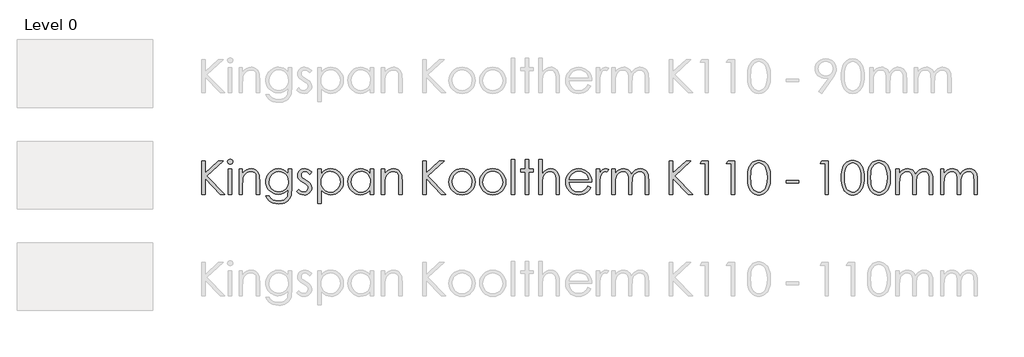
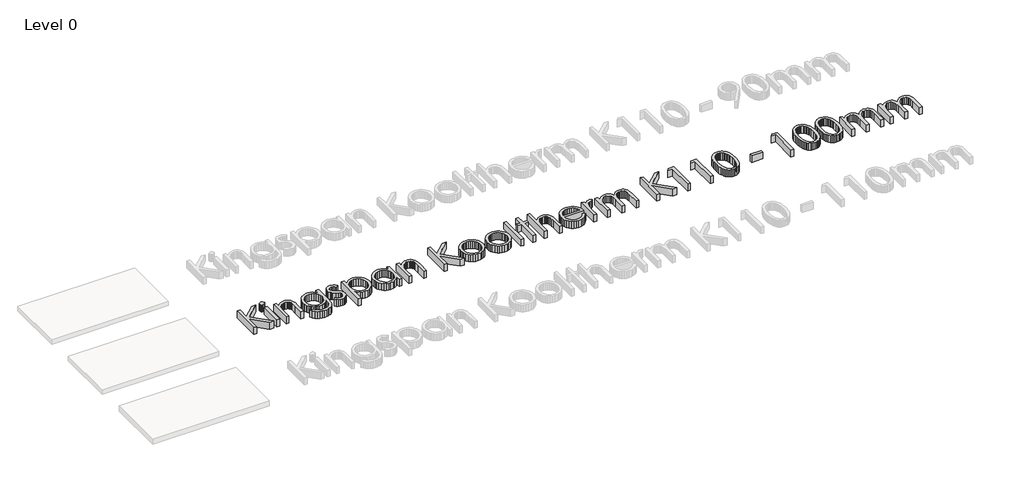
# One storey, part 3 of 9: 1 proxy.
"""IFC4 building model written with IfcOpenShell, lengths in millimetres."""

from ifc_helpers import new_model, si_unit, origin, origin_with_axes, place, context, project, spatial, polyline, outline, extrude, element, save

model = new_model("IFC4")

# Units and contexts
model_context = context("Model", 3, world=origin())
ifc_project = project(units=[si_unit("LENGTHUNIT", "METRE", prefix="MILLI")], contexts=[model_context])

# Site, building, storey
site = spatial("IfcSite", under=ifc_project)
building = spatial("IfcBuilding", under=site)
storey = spatial("IfcBuildingStorey", under=building, Name="Level 0", Elevation=0.0)

# Proxy
placement = place(None, origin())
element("IfcBuildingElementProxy", 1, Name="600mm KI_CenturyGothic", ObjectType="600mm KI_CenturyGothic", at=placement, inside=storey, context=model_context, shape_type="SweptSolid", body=[
    extrude(outline(polyline([(-3852.2663848, -4899.1034017), (-3792.944575, -4899.1034017), (-3792.944575, -5118.316027), (-3555.1938841, -4899.1034017), (-3471.6181051, -4899.1034017), (-3760.9664119, -5166.0515459), (-3441.9572002, -5492.3214999), (-3520.8984627, -5492.3214999), (-3792.944575, -5214.0960325), (-3792.944575, -5492.3214999), (-3852.2663848, -5492.3214999), (-3852.2663848, -4899.1034017)])), origin_with_axes(), (0.0, 0.0, 1.0), 150.0),
    extrude(outline(polyline([(-3348.1854852, -4869.4424967), (-3329.145347, -4872.7252792), (-3313.1176445, -4882.5736265), (-3302.226531, -4897.0178693), (-3298.5961598, -4914.088338), (-3302.226531, -4930.9270809), (-3313.1176445, -4945.2940817), (-3329.145347, -4955.142429), (-3348.1854852, -4958.4252115), (-3366.9938975, -4955.142429), (-3382.9443581, -4945.2940817), (-3393.8354717, -4930.9270809), (-3397.4658428, -4914.088338), (-3393.8354717, -4897.0178693), (-3382.9443581, -4882.5736265), (-3366.9938975, -4872.7252792), (-3348.1854852, -4869.4424967)])), origin_with_axes(), (0.0, 0.0, 1.0), 150.0),
    extrude(outline(polyline([(-3377.6919062, -5047.4079262), (-3318.3700964, -5047.4079262), (-3318.3700964, -5492.3214999), (-3377.6919062, -5492.3214999), (-3377.6919062, -5047.4079262)])), origin_with_axes(), (0.0, 0.0, 1.0), 150.0),
    extrude(outline(polyline([(-3189.8395084, -5047.4079262), (-3130.5176986, -5047.4079262), (-3130.5176986, -5126.5036726), (-3096.9946967, -5086.9944204), (-3060.0730495, -5059.303185), (-3019.7141359, -5042.9665147), (-2975.879335, -5037.5209579), (-2953.4357238, -5039.0995901), (-2932.2955704, -5043.8354865), (-2912.4588747, -5051.7286472), (-2893.9256368, -5062.7790723), (-2877.212412, -5076.5039994), (-2862.835756, -5092.4206667), (-2841.0921499, -5130.8292213), (-2833.6238199, -5155.2087086), (-2828.2892984, -5185.5551357), (-2824.0216812, -5264.1488095), (-2824.0216812, -5492.3214999), (-2883.343491, -5492.3214999), (-2883.343491, -5279.1337458), (-2883.343491, -5176.092998), (-2884.7290183, -5155.2956057), (-2889.8125035, -5137.2403023), (-2898.2849788, -5121.9270877), (-2910.1464442, -5109.355962), (-2924.7403432, -5099.5558909), (-2941.4101193, -5092.5558401), (-2980.977303, -5086.9557994), (-3005.3471351, -5089.1137461), (-3028.4038541, -5095.5875862), (-3050.1474602, -5106.3773197), (-3070.5779533, -5121.4829466), (-3088.6622225, -5139.7651482), (-3103.3671568, -5160.084606), (-3114.6927562, -5182.44132), (-3122.6390208, -5206.8352901), (-3128.5480292, -5253.9142525), (-3130.5176986, -5328.4141035), (-3130.5176986, -5492.3214999), (-3189.8395084, -5492.3214999), (-3189.8395084, -5047.4079262)])), origin_with_axes(), (0.0, 0.0, 1.0), 150.0),
    extrude(outline(polyline([(-2319.7862977, -5047.4079262), (-2260.4644879, -5047.4079262), (-2260.4644879, -5398.395301), (-2264.5196897, -5478.6496765), (-2269.588692, -5509.4499001), (-2276.6852953, -5534.0321474), (-2289.9371156, -5562.6454585), (-2307.2924139, -5587.7732271), (-2328.7511904, -5609.4154531), (-2354.3134448, -5627.5721366), (-2383.3226209, -5641.9343098), (-2415.122162, -5652.1930049), (-2449.7120682, -5658.348222), (-2487.0923395, -5660.3999611), (-2541.0458345, -5656.3833802), (-2589.206184, -5644.3336376), (-2630.260275, -5625.5059147), (-2662.8949946, -5601.1553932), (-2690.2000204, -5567.8061856), (-2715.2650299, -5521.9824048), (-2655.94322, -5521.9824048), (-2642.4355358, -5543.151524), (-2627.0933555, -5561.3951046), (-2609.9166791, -5576.7131468), (-2590.9055067, -5589.1056506), (-2569.7894914, -5598.6691682), (-2546.2982864, -5605.5002523), (-2492.1903075, -5610.9651195), (-2438.5071593, -5605.6354257), (-2415.083541, -5598.9733084), (-2393.93856, -5589.6463441), (-2359.6624492, -5565.6047903), (-2336.8567664, -5536.1176798), (-2329.3884364, -5517.4782342), (-2324.0539149, -5493.7697863), (-2319.7862977, -5431.1458835), (-2319.7862977, -5408.4367532), (-2354.757586, -5444.2190818), (-2396.6420279, -5470.6165148), (-2443.392712, -5486.8952536), (-2492.9627269, -5492.3214999), (-2522.4063889, -5490.4242447), (-2550.9521133, -5484.7324793), (-2578.5999001, -5475.2462036), (-2605.3497494, -5461.9654175), (-2630.1540674, -5445.4742634), (-2651.9652601, -5426.3568832), (-2670.7833277, -5404.6132772), (-2686.6082702, -5380.2434451), (-2699.1456025, -5353.9280817), (-2708.1008399, -5326.3478816), (-2713.4739824, -5297.5028447), (-2715.2650299, -5267.392971), (-2713.3967404, -5237.1044753), (-2707.7918722, -5207.8780563), (-2698.4504251, -5179.713714), (-2685.3723991, -5152.6114483), (-2668.9971079, -5127.4257483), (-2649.7638648, -5105.0111029), (-2627.67267, -5085.367512), (-2602.7235235, -5068.4949758), (-2575.9833294, -5054.943843), (-2548.5189922, -5045.2644624), (-2520.3305117, -5039.456834), (-2491.4178881, -5037.5209579), (-2444.5320306, -5042.4644421), (-2400.8903346, -5057.2948945), (-2359.6045177, -5083.8661218), (-2319.7862977, -5124.0319306), (-2319.7862977, -5047.4079262)]), holes=[polyline([(-2484.1571458, -5086.9557994), (-2529.0154023, -5092.9806707), (-2570.5908765, -5111.0552847), (-2606.2187212, -5139.7699758), (-2633.2340897, -5177.7150788), (-2650.2659375, -5221.9940208), (-2655.94322, -5269.7102292), (-2653.0080263, -5305.6229036), (-2644.2024452, -5338.2817613), (-2629.5264766, -5367.6868023), (-2608.9801206, -5393.8380266), (-2583.7606272, -5415.296803), (-2555.0652466, -5430.6245004), (-2522.8939786, -5439.8211189), (-2487.2468234, -5442.8866584), (-2451.3244937, -5439.845257), (-2419.1001219, -5430.7210528), (-2390.573708, -5415.5140459), (-2365.7452519, -5394.2242363), (-2345.6382095, -5367.9812872), (-2331.2760363, -5337.9148621), (-2322.6587323, -5304.024961), (-2319.7862977, -5266.3115838), (-2325.0773706, -5217.6105407), (-2340.9505892, -5174.3936754), (-2366.4983608, -5138.1672056), (-2400.8130926, -5110.4373492), (-2440.9982119, -5092.8261869), (-2484.1571458, -5086.9557994)])]), origin_with_axes(), (0.0, 0.0, 1.0), 150.0),
    extrude(outline(polyline([(-1904.5336289, -5098.6965743), (-1940.9918246, -5136.390641), (-1962.9575012, -5114.7628978), (-1984.6721416, -5099.3145098), (-2006.1357456, -5090.045477), (-2027.3483133, -5086.9557994), (-2052.181597, -5091.6289368), (-2073.2300256, -5105.6483489), (-2087.5970264, -5125.8857371), (-2092.3860267, -5149.212803), (-2088.4466878, -5170.7633042), (-2076.628671, -5191.2324183), (-2052.0657341, -5213.400855), (-2010.2006027, -5239.122421), (-1958.3326401, -5271.9888664), (-1939.8428507, -5287.8138088), (-1926.315856, -5303.2332311), (-1909.9791857, -5335.9065716), (-1904.5336289, -5372.4420092), (-1906.9474396, -5398.5884059), (-1914.1888714, -5422.6492701), (-1926.2579245, -5444.624602), (-1943.1545989, -5464.5144015), (-1963.6719892, -5481.0055557), (-1986.6031901, -5492.7849515), (-2011.9482016, -5499.852589), (-2039.7070237, -5502.2084682), (-2077.4397114, -5498.3270607), (-2113.3958344, -5486.6828383), (-2145.4512394, -5468.2027042), (-2171.4817731, -5443.8135617), (-2135.7959969, -5403.3387852), (-2114.0041146, -5424.9665283), (-2091.5749863, -5440.4149163), (-2068.5086121, -5449.6839491), (-2044.8049918, -5452.7736267), (-2013.637869, -5447.1349651), (-1987.4914724, -5430.2189802), (-1969.7644472, -5405.6560434), (-1963.8554388, -5377.0765256), (-1967.7561567, -5353.2860081), (-1979.4583106, -5332.2762005), (-2005.0253927, -5310.5712154), (-2050.2119275, -5283.7682622), (-2099.762632, -5253.1032121), (-2117.441381, -5237.9444814), (-2130.3890611, -5222.9016136), (-2146.3781427, -5190.7689666), (-2151.7078365, -5154.310771), (-2149.5305794, -5130.2643896), (-2142.9988078, -5108.3325063), (-2132.1125219, -5088.5151211), (-2116.8717217, -5070.812234), (-2098.309518, -5056.2473007), (-2077.4590218, -5045.8437769), (-2054.3202332, -5039.6016627), (-2028.8931521, -5037.5209579), (-1997.9481, -5041.3444339), (-1966.9064954, -5052.814862), (-1935.7683384, -5071.9322421), (-1904.5336289, -5098.6965743)])), origin_with_axes(), (0.0, 0.0, 1.0), 150.0),
    extrude(outline(polyline([(-1795.7769776, -5047.4079262), (-1736.4551678, -5047.4079262), (-1736.4551678, -5128.5119631), (-1700.9238754, -5088.2689124), (-1660.4490989, -5059.9211205), (-1614.9922173, -5043.1209986), (-1564.5146096, -5037.5209579), (-1520.0618732, -5041.7596094), (-1478.9305402, -5054.4755637), (-1441.1206107, -5075.668821), (-1406.6320845, -5105.3393811), (-1377.9077381, -5140.9768811), (-1357.3903478, -5180.070958), (-1345.0799137, -5222.6216116), (-1340.9764356, -5268.628842), (-1345.0412927, -5315.5291824), (-1357.235864, -5358.7508754), (-1377.5601494, -5398.293921), (-1406.014149, -5434.1583192), (-1440.2130179, -5463.9302594), (-1477.7719111, -5485.1959309), (-1518.6908288, -5497.9553339), (-1562.9697708, -5502.2084682), (-1612.6170277, -5496.743601), (-1658.0545988, -5480.3489992), (-1699.3211052, -5453.1019049), (-1736.4551678, -5415.07956), (-1736.4551678, -5650.5129928), (-1795.7769776, -5650.5129928), (-1795.7769776, -5047.4079262)]), holes=[polyline([(-1568.5311905, -5086.9557994), (-1602.5852307, -5090.2530647), (-1633.8392507, -5100.1448607), (-1662.2932503, -5116.6311872), (-1687.9472295, -5139.7120444), (-1709.1694525, -5167.6977647), (-1724.3281832, -5198.8986808), (-1733.4234216, -5233.3147926), (-1736.4551678, -5270.9461002), (-1731.048232, -5319.8016272), (-1714.8274246, -5363.4819442), (-1688.5265441, -5400.3263495), (-1652.8793888, -5428.6741414), (-1611.4390881, -5446.7487554), (-1567.7587711, -5452.7736267), (-1525.0632888, -5446.7101344), (-1485.0326535, -5428.5196576), (-1450.2544701, -5399.4187567), (-1423.3163435, -5360.6239924), (-1406.05277, -5315.9588407), (-1400.2982454, -5269.2467775), (-1405.9948385, -5222.3029886), (-1423.0846177, -5177.8695627), (-1449.8103289, -5139.5189395), (-1484.414718, -5110.8235589), (-1524.7157001, -5092.9227393), (-1568.5311905, -5086.9557994)])]), origin_with_axes(), (0.0, 0.0, 1.0), 150.0),
    extrude(outline(polyline([(-807.0801472, -5047.4079262), (-807.0801472, -5492.3214999), (-866.401957, -5492.3214999), (-866.401957, -5416.4699149), (-903.4780882, -5454.3184655), (-944.8797679, -5481.0441767), (-990.4525125, -5496.9173953), (-1040.0418379, -5502.2084682), (-1084.3159523, -5497.9553339), (-1125.2203871, -5485.1959309), (-1162.7551422, -5463.9302594), (-1196.9202178, -5434.1583192), (-1225.340424, -5398.293921), (-1245.6405713, -5358.7508754), (-1257.8206597, -5315.5291824), (-1261.8806892, -5268.628842), (-1257.7820388, -5222.6216116), (-1245.4860875, -5180.070958), (-1224.9928353, -5140.9768811), (-1196.3022822, -5105.3393811), (-1161.8475494, -5075.668821), (-1124.061758, -5054.4755637), (-1082.9449079, -5041.7596094), (-1038.4969991, -5037.5209579), (-987.7490446, -5043.1209986), (-942.0990581, -5059.9211205), (-921.2051134, -5072.6081091), (-901.6242816, -5088.2689124), (-866.401957, -5128.5119631), (-866.401957, -5047.4079262), (-807.0801472, -5047.4079262)]), holes=[polyline([(-1034.3259343, -5086.9557994), (-1078.1414247, -5092.9227393), (-1118.4424068, -5110.8235589), (-1153.0467959, -5139.5189395), (-1179.7725071, -5177.8695627), (-1196.8622863, -5222.3029886), (-1202.5588794, -5269.2467775), (-1196.8043548, -5315.9588407), (-1179.5407813, -5360.6239924), (-1152.6026548, -5399.4187567), (-1117.8244713, -5428.5196576), (-1077.6779731, -5446.7101344), (-1034.6349021, -5452.7736267), (-991.0125165, -5446.7487554), (-949.7460102, -5428.6741414), (-914.2726493, -5400.3263495), (-888.0297002, -5363.4819442), (-871.8088928, -5319.8016272), (-866.401957, -5270.9461002), (-869.4337032, -5233.3147926), (-878.5289416, -5198.8986808), (-893.6876723, -5167.6977647), (-914.9098953, -5139.7120444), (-940.5638746, -5116.6311872), (-969.0178742, -5100.1448607), (-1000.2718941, -5090.2530647), (-1034.3259343, -5086.9557994)])]), origin_with_axes(), (0.0, 0.0, 1.0), 150.0),
    extrude(outline(polyline([(-668.662591, -5047.4079262), (-609.3407811, -5047.4079262), (-609.3407811, -5126.5036726), (-575.8177792, -5086.9944204), (-538.896132, -5059.303185), (-498.5372184, -5042.9665147), (-454.7024175, -5037.5209579), (-432.2588064, -5039.0995901), (-411.1186529, -5043.8354865), (-391.2819572, -5051.7286472), (-372.7487193, -5062.7790723), (-356.0354946, -5076.5039994), (-341.6588385, -5092.4206667), (-319.9152324, -5130.8292213), (-312.4469024, -5155.2087086), (-307.1123809, -5185.5551357), (-302.8447637, -5264.1488095), (-302.8447637, -5492.3214999), (-362.1665735, -5492.3214999), (-362.1665735, -5279.1337458), (-362.1665735, -5176.092998), (-363.5521008, -5155.2956057), (-368.635586, -5137.2403023), (-377.1080613, -5121.9270877), (-388.9695267, -5109.355962), (-403.5634257, -5099.5558909), (-420.2332018, -5092.5558401), (-459.8003855, -5086.9557994), (-484.1702176, -5089.1137461), (-507.2269366, -5095.5875862), (-528.9705427, -5106.3773197), (-549.4010358, -5121.4829466), (-567.485305, -5139.7651482), (-582.1902393, -5160.084606), (-593.5158387, -5182.44132), (-601.4621033, -5206.8352901), (-607.3711117, -5253.9142525), (-609.3407811, -5328.4141035), (-609.3407811, -5492.3214999), (-668.662591, -5492.3214999), (-668.662591, -5047.4079262)])), origin_with_axes(), (0.0, 0.0, 1.0), 150.0),
    extrude(outline(polyline([(62.9730635, -4899.1034017), (122.2948734, -4899.1034017), (122.2948734, -5118.316027), (360.0455643, -4899.1034017), (443.6213432, -4899.1034017), (154.2730365, -5166.0515459), (473.2822481, -5492.3214999), (394.3409856, -5492.3214999), (122.2948734, -5214.0960325), (122.2948734, -5492.3214999), (62.9730635, -5492.3214999), (62.9730635, -4899.1034017)])), origin_with_axes(), (0.0, 0.0, 1.0), 150.0),
    extrude(outline(polyline([(760.1588128, -5037.5209579), (809.4681362, -5042.1458191), (854.3553585, -5056.0204025), (894.8204798, -5079.1447083), (930.8635, -5111.5187363), (957.7630055, -5146.7507161), (976.9769381, -5185.091684), (988.5052976, -5226.54164), (992.3480841, -5271.1005841), (988.283227, -5315.9153921), (976.0886558, -5357.8239721), (955.7643703, -5396.8263241), (927.3103707, -5432.9224481), (892.4742558, -5463.2350819), (853.0036246, -5484.8869632), (808.8984769, -5497.8780919), (760.1588128, -5502.2084682), (711.2839754, -5497.8780919), (667.0822753, -5484.8869632), (627.5537126, -5463.2350819), (592.6982872, -5432.9224481), (564.2442876, -5396.8263241), (543.9200022, -5357.8239721), (531.7254309, -5315.9153921), (527.6605738, -5271.1005841), (531.5033603, -5226.7347449), (543.0317198, -5185.4006518), (562.2456524, -5147.0983049), (589.145158, -5111.8277041), (625.2074886, -5079.3185026), (665.7305413, -5056.0976445), (710.7143161, -5042.1651295), (760.1588128, -5037.5209579)]), holes=[polyline([(760.004329, -5086.9557994), (725.7282181, -5090.3303067), (693.9624704, -5100.4538284), (664.7070856, -5117.3263647), (637.962064, -5140.9479154), (615.6584538, -5169.3584664), (599.7273037, -5200.5980035), (590.1686137, -5234.6665266), (586.9823836, -5271.5640357), (592.7948396, -5319.2995546), (610.2322075, -5363.6364281), (637.5758543, -5401.4270471), (673.1071466, -5429.5238028), (714.6439998, -5446.9611707), (760.004329, -5452.7736267), (805.3646581, -5446.9611707), (846.9015113, -5429.5238028), (882.4328037, -5401.4270471), (909.7764504, -5363.6364281), (927.2138183, -5319.2995546), (933.0262743, -5271.5640357), (929.8255614, -5234.6665266), (920.2234227, -5200.5980035), (904.2198583, -5169.3584664), (881.8148681, -5140.9479154), (854.9974321, -5117.3263647), (825.7565303, -5100.4538284), (794.0921625, -5090.3303067), (760.004329, -5086.9557994)])]), origin_with_axes(), (0.0, 0.0, 1.0), 150.0),
    extrude(outline(polyline([(1303.9420695, -5037.5209579), (1353.2513929, -5042.1458191), (1398.1386152, -5056.0204025), (1438.6037365, -5079.1447083), (1474.6467567, -5111.5187363), (1501.5462622, -5146.7507161), (1520.7601948, -5185.091684), (1532.2885543, -5226.54164), (1536.1313408, -5271.1005841), (1532.0664837, -5315.9153921), (1519.8719125, -5357.8239721), (1499.547627, -5396.8263241), (1471.0936274, -5432.9224481), (1436.2575126, -5463.2350819), (1396.7868813, -5484.8869632), (1352.6817336, -5497.8780919), (1303.9420695, -5502.2084682), (1255.0672321, -5497.8780919), (1210.865532, -5484.8869632), (1171.3369693, -5463.2350819), (1136.4815439, -5432.9224481), (1108.0275443, -5396.8263241), (1087.7032589, -5357.8239721), (1075.5086876, -5315.9153921), (1071.4438305, -5271.1005841), (1075.286617, -5226.7347449), (1086.8149766, -5185.4006518), (1106.0289091, -5147.0983049), (1132.9284147, -5111.8277041), (1168.9907453, -5079.3185026), (1209.5137981, -5056.0976445), (1254.4975728, -5042.1651295), (1303.9420695, -5037.5209579)]), holes=[polyline([(1303.7875857, -5086.9557994), (1269.5114748, -5090.3303067), (1237.7457271, -5100.4538284), (1208.4903423, -5117.3263647), (1181.7453207, -5140.9479154), (1159.4417105, -5169.3584664), (1143.5105604, -5200.5980035), (1133.9518704, -5234.6665266), (1130.7656404, -5271.5640357), (1136.5780963, -5319.2995546), (1154.0154643, -5363.6364281), (1181.359111, -5401.4270471), (1216.8904033, -5429.5238028), (1258.4272565, -5446.9611707), (1303.7875857, -5452.7736267), (1349.1479149, -5446.9611707), (1390.684768, -5429.5238028), (1426.2160604, -5401.4270471), (1453.5597071, -5363.6364281), (1470.997075, -5319.2995546), (1476.809531, -5271.5640357), (1473.6088181, -5234.6665266), (1464.0066795, -5200.5980035), (1448.003115, -5169.3584664), (1425.5981249, -5140.9479154), (1398.7806889, -5117.3263647), (1369.539787, -5100.4538284), (1337.8754193, -5090.3303067), (1303.7875857, -5086.9557994)])]), origin_with_axes(), (0.0, 0.0, 1.0), 150.0),
    extrude(outline(polyline([(1635.0010238, -4879.3294651), (1694.3228337, -4879.3294651), (1694.3228337, -5492.3214999), (1635.0010238, -5492.3214999), (1635.0010238, -4879.3294651)])), origin_with_axes(), (0.0, 0.0, 1.0), 150.0),
    extrude(outline(polyline([(1882.1752314, -4879.3294651), (1941.4970413, -4879.3294651), (1941.4970413, -5047.4079262), (2020.5927877, -5047.4079262), (2020.5927877, -5096.8427677), (1941.4970413, -5096.8427677), (1941.4970413, -5492.3214999), (1882.1752314, -5492.3214999), (1882.1752314, -5096.8427677), (1803.079485, -5096.8427677), (1803.079485, -5047.4079262), (1882.1752314, -5047.4079262), (1882.1752314, -4879.3294651)])), origin_with_axes(), (0.0, 0.0, 1.0), 150.0),
    extrude(outline(polyline([(2119.4624707, -4879.3294651), (2178.7842806, -4879.3294651), (2178.7842806, -5128.0485114), (2212.5583188, -5088.3461544), (2249.6151394, -5060.0756044), (2289.9161216, -5043.1596195), (2333.4226442, -5037.5209579), (2355.8662553, -5039.0995901), (2377.0064088, -5043.8354865), (2396.8431044, -5051.7286472), (2415.3763424, -5062.7790723), (2432.0895671, -5076.4895166), (2446.4662232, -5092.3627352), (2468.2098293, -5130.5974955), (2475.6781593, -5154.9045684), (2481.0126808, -5185.2654784), (2485.280298, -5264.1488095), (2485.280298, -5492.3214999), (2425.9584882, -5492.3214999), (2425.9584882, -5279.1337458), (2424.5681332, -5214.752589), (2420.3970685, -5176.092998), (2406.879729, -5137.2403023), (2397.1665551, -5121.9270877), (2385.4837117, -5109.355962), (2371.840854, -5099.5558909), (2356.2476374, -5092.5558401), (2319.2101273, -5086.9557994), (2296.3416854, -5089.1137461), (2274.6994594, -5095.5875862), (2254.2834492, -5106.3773197), (2235.0936547, -5121.4829466), (2218.1052556, -5139.7651482), (2204.2934312, -5160.084606), (2193.6581816, -5182.44132), (2186.1995068, -5206.8352901), (2180.6380871, -5253.6825267), (2178.7842806, -5328.4141035), (2178.7842806, -5492.3214999), (2119.4624707, -5492.3214999), (2119.4624707, -4879.3294651)])), origin_with_axes(), (0.0, 0.0, 1.0), 150.0),
    extrude(outline(polyline([(2991.0605203, -5344.0169753), (3038.950523, -5369.1978477), (3013.3255094, -5411.0822896), (2984.0315038, -5444.0452875), (2950.952643, -5469.1296074), (2913.9730643, -5487.3780157), (2872.4941426, -5498.5008551), (2825.9172528, -5502.2084682), (2774.4258447, -5497.7767119), (2728.8627554, -5484.481443), (2689.227985, -5462.3226615), (2655.5215335, -5431.3003674), (2628.6220279, -5394.6973431), (2609.4080954, -5355.7963712), (2597.8797358, -5314.5974515), (2594.0369493, -5271.1005841), (2597.3197318, -5230.2202874), (2607.1680791, -5191.618628), (2623.5819913, -5155.2956057), (2646.5614684, -5121.2512207), (2682.7493173, -5084.6192308), (2724.5758277, -5058.4535236), (2772.0409998, -5042.7540993), (2825.1448334, -5037.5209579), (2879.7935059, -5042.8892727), (2928.6490329, -5058.9942172), (2971.7114143, -5085.8357913), (3008.9806503, -5123.4139951), (3030.4539096, -5155.585263), (3045.9022976, -5191.541386), (3055.3258143, -5231.2823641), (3058.7244596, -5274.8081972), (2653.3587591, -5274.8081972), (2657.095338, -5312.0629503), (2666.6057518, -5345.8128504), (2681.8900007, -5376.0578975), (2702.9480845, -5402.7980916), (2728.3124066, -5424.6623882), (2756.5153699, -5440.2797429), (2787.5569744, -5449.6501557), (2821.4372203, -5452.7736267), (2854.9602222, -5449.761191), (2887.5563208, -5440.7238841), (2917.2944677, -5426.6851615), (2942.2436143, -5408.668479), (2965.725164, -5382.5027719), (2991.0605203, -5344.0169753)]), holes=[polyline([(2999.4026498, -5225.3733557), (2984.9777175, -5182.8516678), (2965.1844704, -5149.8307385), (2939.0766947, -5124.3022774), (2905.7081767, -5104.257994), (2867.7630738, -5091.2813481), (2827.9255433, -5086.9557994), (2795.503239, -5089.6689226), (2765.4368139, -5097.808292), (2737.726268, -5111.3739077), (2712.3716012, -5130.3657696), (2695.8321708, -5148.179692), (2681.4362043, -5169.9522638), (2669.1837016, -5195.683485), (2659.0746627, -5225.3733557), (2999.4026498, -5225.3733557)])]), origin_with_axes(), (0.0, 0.0, 1.0), 150.0),
    extrude(outline(polyline([(3137.820206, -5047.4079262), (3197.1420159, -5047.4079262), (3197.1420159, -5111.8277041), (3222.6897875, -5078.7874643), (3249.589293, -5055.6728138), (3277.7632906, -5042.0589219), (3307.1345382, -5037.5209579), (3330.4616041, -5041.305813), (3355.3335087, -5052.6603781), (3325.8270877, -5094.6799934), (3297.2475699, -5086.9557994), (3270.8308265, -5092.9034288), (3245.3409863, -5110.7463169), (3223.2884125, -5141.1023993), (3207.183468, -5184.5896114), (3199.6523789, -5242.7141712), (3197.1420159, -5340.1548783), (3197.1420159, -5492.3214999), (3137.820206, -5492.3214999), (3137.820206, -5047.4079262)])), origin_with_axes(), (0.0, 0.0, 1.0), 150.0),
    extrude(outline(polyline([(3414.6553185, -5047.4079262), (3473.9771284, -5047.4079262), (3473.9771284, -5123.5684789), (3503.5607913, -5087.0716623), (3533.9168737, -5061.9294109), (3577.3268439, -5043.6230712), (3622.8995884, -5037.5209579), (3653.7384329, -5040.668567), (3682.9165757, -5050.1113941), (3708.6767627, -5064.7873627), (3729.2617397, -5083.634396), (3746.0425511, -5109.0663047), (3760.3902414, -5143.4968994), (3775.16759, -5119.0981017), (3791.6925376, -5097.808292), (3809.965084, -5079.6274704), (3829.9852293, -5064.5556369), (3851.2798666, -5052.7279648), (3873.375889, -5044.2796277), (3896.2732965, -5039.2106253), (3919.9720892, -5037.5209579), (3962.3006723, -5043.3334139), (3981.4952943, -5050.5989839), (3999.3768034, -5060.7707818), (4015.4914031, -5073.53984), (4029.385297, -5088.5971907), (4050.5109676, -5125.5767694), (4057.8103309, -5148.9521114), (4063.0241619, -5177.5219739), (4067.1952266, -5250.2452603), (4067.1952266, -5492.3214999), (4007.8734168, -5492.3214999), (4007.8734168, -5246.6921311), (4005.4209852, -5185.5744462), (3998.0636904, -5147.1272706), (3984.7587663, -5122.6608861), (3964.4634466, -5103.4855746), (3938.3942919, -5091.0882432), (3907.7678627, -5086.9557994), (3888.1194443, -5088.5054659), (3869.3399976, -5093.1544651), (3834.3880198, -5111.7504621), (3805.6540182, -5140.6968791), (3785.8800816, -5177.9468046), (3779.1889985, -5202.1042213), (3774.4096535, -5233.1747916), (3770.5861775, -5316.0553931), (3770.5861775, -5492.3214999), (3711.2643677, -5492.3214999), (3711.2643677, -5261.9860352), (3708.850557, -5193.530366), (3701.6091252, -5151.2983353), (3688.3621325, -5125.0553863), (3667.9316394, -5104.5669617), (3641.6114484, -5091.35859), (3610.6953619, -5086.9557994), (3573.7544042, -5092.9999812), (3539.2465676, -5111.1325266), (3510.2808401, -5139.499629), (3489.9662099, -5176.2474819), (3477.9743988, -5228.0768236), (3473.9771284, -5301.6883923), (3473.9771284, -5492.3214999), (3414.6553185, -5492.3214999), (3414.6553185, -5047.4079262)])), origin_with_axes(), (0.0, 0.0, 1.0), 150.0),
    extrude(outline(polyline([(4433.0130538, -4899.1034017), (4492.3348637, -4899.1034017), (4492.3348637, -5118.316027), (4730.0855546, -4899.1034017), (4813.6613335, -4899.1034017), (4524.3130268, -5166.0515459), (4843.3222385, -5492.3214999), (4764.3809759, -5492.3214999), (4492.3348637, -5214.0960325), (4492.3348637, -5492.3214999), (4433.0130538, -5492.3214999), (4433.0130538, -4899.1034017)])), origin_with_axes(), (0.0, 0.0, 1.0), 150.0),
    extrude(outline(polyline([(5010.6282802, -4899.1034017), (5125.1008351, -4899.1034017), (5125.1008351, -5492.3214999), (5065.7790253, -5492.3214999), (5065.7790253, -4948.5382432), (4976.7963106, -4948.5382432), (5010.6282802, -4899.1034017)])), origin_with_axes(), (0.0, 0.0, 1.0), 150.0),
    extrude(outline(polyline([(5475.3157905, -4899.1034017), (5589.7883454, -4899.1034017), (5589.7883454, -5492.3214999), (5530.4665356, -5492.3214999), (5530.4665356, -4948.5382432), (5441.4838208, -4948.5382432), (5475.3157905, -4899.1034017)])), origin_with_axes(), (0.0, 0.0, 1.0), 150.0),
    extrude(outline(polyline([(5817.1886164, -5195.8669347), (5818.7672485, -5141.4355052), (5823.503145, -5093.5406748), (5831.3963057, -5052.1824436), (5842.4467307, -5017.3608116), (5856.374418, -4987.7192172), (5872.8993655, -4961.9010988), (5892.0215733, -4939.9064564), (5913.7410412, -4921.73529), (5937.4350063, -4907.5082902), (5962.4807053, -4897.3461475), (5988.8781382, -4891.2488619), (6016.6273051, -4889.2164334), (6044.8302684, -4891.2633448), (6071.6621873, -4897.404079), (6097.1230617, -4907.638636), (6121.2128917, -4921.9670159), (6143.3958113, -4940.3843909), (6163.1359546, -4962.8859335), (6180.4333215, -4989.4716437), (6195.2879121, -5020.1415214), (6207.2169642, -5055.6583309), (6215.7377157, -5096.7848363), (6220.8501666, -5143.5210375), (6222.5543169, -5195.8669347), (6220.8743047, -5248.0535203), (6215.8342681, -5294.6207548), (6207.4342071, -5335.5686382), (6195.6741218, -5370.8971704), (6180.9643599, -5401.4222195), (6163.7152692, -5427.9596535), (6143.9268497, -5450.5094723), (6121.5991014, -5469.071676), (6097.3403047, -5483.5690226), (6071.7587397, -5493.9242701), (6044.8544066, -5500.1374187), (6016.6273051, -5502.2084682), (5988.9022764, -5500.2001778), (5962.5772577, -5494.1753064), (5937.6522492, -5484.1338543), (5914.1272509, -5470.0758212), (5892.5526116, -5452.0398282), (5873.4786801, -5430.0644964), (5856.9054564, -5404.1498255), (5842.8329404, -5374.2958158), (5831.6135487, -5339.2762513), (5823.5996974, -5297.8649163), (5818.7913866, -5250.0618107), (5817.1886164, -5195.8669347)]), holes=[polyline([(5876.5104262, -5195.7124508), (5880.8939063, -5284.038609), (5886.3732564, -5319.0195525), (5894.0443466, -5347.8790723), (5903.8589006, -5372.1185586), (5915.7686422, -5393.2394015), (5929.7735714, -5411.2416011), (5945.8736882, -5426.1251574), (5981.1732547, -5446.1115094), (5999.5761469, -5451.1080973), (6018.4811117, -5452.7736267), (6037.4729737, -5451.1418907), (6055.8275896, -5446.2466828), (6090.6250835, -5426.665851), (6106.3824393, -5411.9898824), (6120.1315046, -5394.0697524), (6131.8722794, -5372.9054608), (6141.6047639, -5348.4970078), (6151.0669015, -5315.1381451), (6157.8255712, -5278.5544313), (6163.232507, -5195.7124508), (6158.4048858, -5114.1063413), (6152.3703592, -5079.4150551), (6143.9220221, -5048.7982811), (6133.3398763, -5022.135329), (6120.903924, -4999.3055082), (6106.6141651, -4980.3088186), (6090.4705997, -4965.1452603), (6055.402759, -4945.2747712), (6037.1736612, -4940.307149), (6018.4811117, -4938.6512749), (5999.4651116, -4940.307149), (5981.0380814, -4945.2747712), (5945.9509302, -4965.1452603), (5930.0052972, -4979.9564022), (5916.0776099, -4997.8958428), (5904.1678683, -5018.9635819), (5894.2760724, -5043.1596195), (5886.5036022, -5072.0143117), (5880.9518378, -5107.0580143), (5876.5104262, -5195.7124508)])]), origin_with_axes(), (0.0, 0.0, 1.0), 150.0),
    extrude(outline(polyline([(6499.3894294, -5245.1472923), (6726.7897004, -5245.1472923), (6726.7897004, -5294.5821338), (6499.3894294, -5294.5821338), (6499.3894294, -5245.1472923)])), origin_with_axes(), (0.0, 0.0, 1.0), 150.0),
    extrude(outline(polyline([(7136.3264656, -4899.1034017), (7250.7990205, -4899.1034017), (7250.7990205, -5492.3214999), (7191.4772106, -5492.3214999), (7191.4772106, -4948.5382432), (7102.4944959, -4948.5382432), (7136.3264656, -4899.1034017)])), origin_with_axes(), (0.0, 0.0, 1.0), 150.0),
    extrude(outline(polyline([(7478.1992914, -5195.8669347), (7479.7779236, -5141.4355052), (7484.51382, -5093.5406748), (7492.4069808, -5052.1824436), (7503.4574058, -5017.3608116), (7517.3850931, -4987.7192172), (7533.9100406, -4961.9010988), (7553.0322483, -4939.9064564), (7574.7517163, -4921.73529), (7598.4456813, -4907.5082902), (7623.4913804, -4897.3461475), (7649.8888133, -4891.2488619), (7677.6379802, -4889.2164334), (7705.8409435, -4891.2633448), (7732.6728624, -4897.404079), (7758.1337368, -4907.638636), (7782.2235668, -4921.9670159), (7804.4064864, -4940.3843909), (7824.1466297, -4962.8859335), (7841.4439966, -4989.4716437), (7856.2985871, -5020.1415214), (7868.2276392, -5055.6583309), (7876.7483907, -5096.7848363), (7881.8608416, -5143.5210375), (7883.5649919, -5195.8669347), (7881.8849797, -5248.0535203), (7876.8449431, -5294.6207548), (7868.4448822, -5335.5686382), (7856.6847968, -5370.8971704), (7841.9750349, -5401.4222195), (7824.7259442, -5427.9596535), (7804.9375247, -5450.5094723), (7782.6097765, -5469.071676), (7758.3509797, -5483.5690226), (7732.7694148, -5493.9242701), (7705.8650816, -5500.1374187), (7677.6379802, -5502.2084682), (7649.9129514, -5500.2001778), (7623.5879328, -5494.1753064), (7598.6629243, -5484.1338543), (7575.137926, -5470.0758212), (7553.5632867, -5452.0398282), (7534.4893551, -5430.0644964), (7517.9161314, -5404.1498255), (7503.8436155, -5374.2958158), (7492.6242237, -5339.2762513), (7484.6103725, -5297.8649163), (7479.8020617, -5250.0618107), (7478.1992914, -5195.8669347)]), holes=[polyline([(7537.5211013, -5195.7124508), (7541.9045814, -5284.038609), (7547.3839315, -5319.0195525), (7555.0550216, -5347.8790723), (7564.8695756, -5372.1185586), (7576.7793172, -5393.2394015), (7590.7842464, -5411.2416011), (7606.8843633, -5426.1251574), (7642.1839298, -5446.1115094), (7660.586822, -5451.1080973), (7679.4917868, -5452.7736267), (7698.4836487, -5451.1418907), (7716.8382647, -5446.2466828), (7751.6357586, -5426.665851), (7767.3931143, -5411.9898824), (7781.1421796, -5394.0697524), (7792.8829545, -5372.9054608), (7802.6154389, -5348.4970078), (7812.0775766, -5315.1381451), (7818.8362463, -5278.5544313), (7824.2431821, -5195.7124508), (7819.4155608, -5114.1063413), (7813.3810343, -5079.4150551), (7804.9326971, -5048.7982811), (7794.3505514, -5022.135329), (7781.914599, -4999.3055082), (7767.6248402, -4980.3088186), (7751.4812747, -4965.1452603), (7716.413434, -4945.2747712), (7698.1843362, -4940.307149), (7679.4917868, -4938.6512749), (7660.4757867, -4940.307149), (7642.0487564, -4945.2747712), (7606.9616052, -4965.1452603), (7591.0159723, -4979.9564022), (7577.088285, -4997.8958428), (7565.1785434, -5018.9635819), (7555.2867474, -5043.1596195), (7547.5142772, -5072.0143117), (7541.9625128, -5107.0580143), (7537.5211013, -5195.7124508)])]), origin_with_axes(), (0.0, 0.0, 1.0), 150.0),
    extrude(outline(polyline([(7942.8868017, -5195.8669347), (7944.4654339, -5141.4355052), (7949.2013303, -5093.5406748), (7957.094491, -5052.1824436), (7968.1449161, -5017.3608116), (7982.0726034, -4987.7192172), (7998.5975509, -4961.9010988), (8017.7197586, -4939.9064564), (8039.4392266, -4921.73529), (8063.1331916, -4907.5082902), (8088.1788906, -4897.3461475), (8114.5763236, -4891.2488619), (8142.3254905, -4889.2164334), (8170.5284538, -4891.2633448), (8197.3603726, -4897.404079), (8222.8212471, -4907.638636), (8246.9110771, -4921.9670159), (8269.0939967, -4940.3843909), (8288.8341399, -4962.8859335), (8306.1315069, -4989.4716437), (8320.9860974, -5020.1415214), (8332.9151495, -5055.6583309), (8341.435901, -5096.7848363), (8346.5483519, -5143.5210375), (8348.2525022, -5195.8669347), (8346.57249, -5248.0535203), (8341.5324534, -5294.6207548), (8333.1323925, -5335.5686382), (8321.3723071, -5370.8971704), (8306.6625452, -5401.4222195), (8289.4134545, -5427.9596535), (8269.625035, -5450.5094723), (8247.2972868, -5469.071676), (8223.03849, -5483.5690226), (8197.4569251, -5493.9242701), (8170.5525919, -5500.1374187), (8142.3254905, -5502.2084682), (8114.6004617, -5500.2001778), (8088.2754431, -5494.1753064), (8063.3504346, -5484.1338543), (8039.8254363, -5470.0758212), (8018.2507969, -5452.0398282), (7999.1768654, -5430.0644964), (7982.6036417, -5404.1498255), (7968.5311258, -5374.2958158), (7957.311734, -5339.2762513), (7949.2978827, -5297.8649163), (7944.489572, -5250.0618107), (7942.8868017, -5195.8669347)]), holes=[polyline([(8002.2086116, -5195.7124508), (8006.5920916, -5284.038609), (8012.0714418, -5319.0195525), (8019.7425319, -5347.8790723), (8029.5570859, -5372.1185586), (8041.4668275, -5393.2394015), (8055.4717567, -5411.2416011), (8071.5718736, -5426.1251574), (8106.8714401, -5446.1115094), (8125.2743323, -5451.1080973), (8144.179297, -5452.7736267), (8163.171159, -5451.1418907), (8181.525775, -5446.2466828), (8216.3232689, -5426.665851), (8232.0806246, -5411.9898824), (8245.8296899, -5394.0697524), (8257.5704648, -5372.9054608), (8267.3029492, -5348.4970078), (8276.7650868, -5315.1381451), (8283.5237566, -5278.5544313), (8288.9306924, -5195.7124508), (8284.1030711, -5114.1063413), (8278.0685446, -5079.4150551), (8269.6202074, -5048.7982811), (8259.0380616, -5022.135329), (8246.6021093, -4999.3055082), (8232.3123504, -4980.3088186), (8216.168785, -4965.1452603), (8181.1009443, -4945.2747712), (8162.8718465, -4940.307149), (8144.179297, -4938.6512749), (8125.163297, -4940.307149), (8106.7362667, -4945.2747712), (8071.6491155, -4965.1452603), (8055.7034825, -4979.9564022), (8041.7757953, -4997.8958428), (8029.8660536, -5018.9635819), (8019.9742577, -5043.1596195), (8012.2017875, -5072.0143117), (8006.6500231, -5107.0580143), (8002.2086116, -5195.7124508)])]), origin_with_axes(), (0.0, 0.0, 1.0), 150.0),
    extrude(outline(polyline([(8447.1221852, -5047.4079262), (8506.4439951, -5047.4079262), (8506.4439951, -5123.5684789), (8536.027658, -5087.0716623), (8566.3837404, -5061.9294109), (8609.7937106, -5043.6230712), (8655.3664551, -5037.5209579), (8686.2052996, -5040.668567), (8715.3834424, -5050.1113941), (8741.1436294, -5064.7873627), (8761.7286063, -5083.634396), (8778.5094178, -5109.0663047), (8792.8571081, -5143.4968994), (8807.6344567, -5119.0981017), (8824.1594042, -5097.808292), (8842.4319506, -5079.6274704), (8862.4520959, -5064.5556369), (8883.7467332, -5052.7279648), (8905.8427557, -5044.2796277), (8928.7401632, -5039.2106253), (8952.4389559, -5037.5209579), (8994.7675389, -5043.3334139), (9013.962161, -5050.5989839), (9031.8436701, -5060.7707818), (9047.9582698, -5073.53984), (9061.8521637, -5088.5971907), (9082.9778343, -5125.5767694), (9090.2771976, -5148.9521114), (9095.4910285, -5177.5219739), (9099.6620933, -5250.2452603), (9099.6620933, -5492.3214999), (9040.3402835, -5492.3214999), (9040.3402835, -5246.6921311), (9037.8878519, -5185.5744462), (9030.5305571, -5147.1272706), (9017.225633, -5122.6608861), (8996.9303133, -5103.4855746), (8970.8611585, -5091.0882432), (8940.2347294, -5086.9557994), (8920.5863109, -5088.5054659), (8901.8068643, -5093.1544651), (8866.8548865, -5111.7504621), (8838.1208849, -5140.6968791), (8818.3469483, -5177.9468046), (8811.6558652, -5202.1042213), (8806.8765202, -5233.1747916), (8803.0530442, -5316.0553931), (8803.0530442, -5492.3214999), (8743.7312343, -5492.3214999), (8743.7312343, -5261.9860352), (8741.3174237, -5193.530366), (8734.0759919, -5151.2983353), (8720.8289992, -5125.0553863), (8700.3985061, -5104.5669617), (8674.0783151, -5091.35859), (8643.1622286, -5086.9557994), (8606.2212709, -5092.9999812), (8571.7134342, -5111.1325266), (8542.7477068, -5139.499629), (8522.4330766, -5176.2474819), (8510.4412654, -5228.0768236), (8506.4439951, -5301.6883923), (8506.4439951, -5492.3214999), (8447.1221852, -5492.3214999), (8447.1221852, -5047.4079262)])), origin_with_axes(), (0.0, 0.0, 1.0), 150.0),
    extrude(outline(polyline([(9238.0796495, -5047.4079262), (9297.4014594, -5047.4079262), (9297.4014594, -5123.5684789), (9326.9851223, -5087.0716623), (9357.3412047, -5061.9294109), (9400.7511749, -5043.6230712), (9446.3239194, -5037.5209579), (9477.1627639, -5040.668567), (9506.3409067, -5050.1113941), (9532.1010937, -5064.7873627), (9552.6860706, -5083.634396), (9569.4668821, -5109.0663047), (9583.8145724, -5143.4968994), (9598.591921, -5119.0981017), (9615.1168685, -5097.808292), (9633.389415, -5079.6274704), (9653.4095602, -5064.5556369), (9674.7041975, -5052.7279648), (9696.80022, -5044.2796277), (9719.6976275, -5039.2106253), (9743.3964202, -5037.5209579), (9785.7250032, -5043.3334139), (9804.9196253, -5050.5989839), (9822.8011344, -5060.7707818), (9838.9157341, -5073.53984), (9852.809628, -5088.5971907), (9873.9352986, -5125.5767694), (9881.2346619, -5148.9521114), (9886.4484928, -5177.5219739), (9890.6195576, -5250.2452603), (9890.6195576, -5492.3214999), (9831.2977478, -5492.3214999), (9831.2977478, -5246.6921311), (9828.8453162, -5185.5744462), (9821.4880214, -5147.1272706), (9808.1830973, -5122.6608861), (9787.8877776, -5103.4855746), (9761.8186229, -5091.0882432), (9731.1921937, -5086.9557994), (9711.5437752, -5088.5054659), (9692.7643286, -5093.1544651), (9657.8123508, -5111.7504621), (9629.0783492, -5140.6968791), (9609.3044126, -5177.9468046), (9602.6133295, -5202.1042213), (9597.8339845, -5233.1747916), (9594.0105085, -5316.0553931), (9594.0105085, -5492.3214999), (9534.6886987, -5492.3214999), (9534.6886987, -5261.9860352), (9532.274888, -5193.530366), (9525.0334562, -5151.2983353), (9511.7864635, -5125.0553863), (9491.3559704, -5104.5669617), (9465.0357794, -5091.35859), (9434.1196929, -5086.9557994), (9397.1787352, -5092.9999812), (9362.6708986, -5111.1325266), (9333.7051711, -5139.499629), (9313.3905409, -5176.2474819), (9301.3987298, -5228.0768236), (9297.4014594, -5301.6883923), (9297.4014594, -5492.3214999), (9238.0796495, -5492.3214999), (9238.0796495, -5047.4079262)])), origin_with_axes(), (0.0, 0.0, 1.0), 150.0),
])

save(model, "model.ifc")
